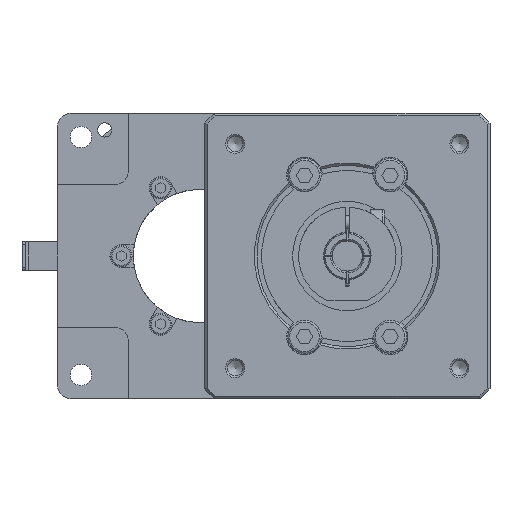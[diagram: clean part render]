
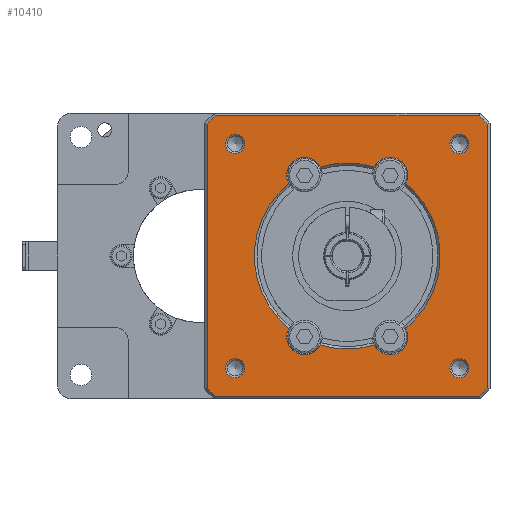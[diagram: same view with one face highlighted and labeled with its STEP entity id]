
A CAD part, front view. The second image highlights one B-rep face of the part: STEP entity #10410.
In plain terms, the highlighted planar face has unit normal (0, -1, 0) as drawn and (0, 0, 1) by its records, which use the part's own axes.
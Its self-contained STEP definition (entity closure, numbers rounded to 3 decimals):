
#446=CIRCLE('',#11142,19.55);
#448=CIRCLE('',#11145,19.55);
#450=CIRCLE('',#11148,19.55);
#473=CIRCLE('',#11186,2.);
#474=CIRCLE('',#11187,2.);
#475=CIRCLE('',#11188,2.);
#476=CIRCLE('',#11189,2.);
#477=CIRCLE('',#11190,3.75);
#478=CIRCLE('',#11191,19.55);
#479=CIRCLE('',#11192,3.75);
#480=CIRCLE('',#11193,3.75);
#481=CIRCLE('',#11194,3.75);
#482=CIRCLE('',#11195,40.5);
#483=CIRCLE('',#11196,40.5);
#484=CIRCLE('',#11197,40.5);
#485=CIRCLE('',#11198,40.5);
#1988=ORIENTED_EDGE('',*,*,#3505,.T.);
#1989=ORIENTED_EDGE('',*,*,#3506,.T.);
#1990=ORIENTED_EDGE('',*,*,#3507,.T.);
#1991=ORIENTED_EDGE('',*,*,#3508,.T.);
#1992=ORIENTED_EDGE('',*,*,#3509,.F.);
#1993=ORIENTED_EDGE('',*,*,#3510,.T.);
#1994=ORIENTED_EDGE('',*,*,#3511,.F.);
#1995=ORIENTED_EDGE('',*,*,#3459,.T.);
#1996=ORIENTED_EDGE('',*,*,#3512,.F.);
#1997=ORIENTED_EDGE('',*,*,#3455,.T.);
#1998=ORIENTED_EDGE('',*,*,#3513,.F.);
#1999=ORIENTED_EDGE('',*,*,#3451,.T.);
#2000=ORIENTED_EDGE('',*,*,#3514,.T.);
#2001=ORIENTED_EDGE('',*,*,#3515,.T.);
#2002=ORIENTED_EDGE('',*,*,#3516,.T.);
#2003=ORIENTED_EDGE('',*,*,#3517,.T.);
#2004=ORIENTED_EDGE('',*,*,#3518,.T.);
#2005=ORIENTED_EDGE('',*,*,#3519,.T.);
#2006=ORIENTED_EDGE('',*,*,#3520,.T.);
#2007=ORIENTED_EDGE('',*,*,#3521,.T.);
#3451=EDGE_CURVE('',#4354,#4352,#446,.T.);
#3455=EDGE_CURVE('',#4358,#4356,#448,.T.);
#3459=EDGE_CURVE('',#4362,#4360,#450,.T.);
#3505=EDGE_CURVE('',#4392,#4392,#473,.T.);
#3506=EDGE_CURVE('',#4393,#4393,#474,.T.);
#3507=EDGE_CURVE('',#4394,#4394,#475,.T.);
#3508=EDGE_CURVE('',#4395,#4395,#476,.T.);
#3509=EDGE_CURVE('',#4396,#4352,#477,.T.);
#3510=EDGE_CURVE('',#4396,#4397,#478,.T.);
#3511=EDGE_CURVE('',#4362,#4397,#479,.T.);
#3512=EDGE_CURVE('',#4358,#4360,#480,.T.);
#3513=EDGE_CURVE('',#4354,#4356,#481,.T.);
#3514=EDGE_CURVE('',#4398,#4399,#5056,.T.);
#3515=EDGE_CURVE('',#4399,#4400,#482,.T.);
#3516=EDGE_CURVE('',#4400,#4401,#5057,.T.);
#3517=EDGE_CURVE('',#4401,#4402,#483,.T.);
#3518=EDGE_CURVE('',#4402,#4403,#5058,.T.);
#3519=EDGE_CURVE('',#4403,#4404,#484,.T.);
#3520=EDGE_CURVE('',#4404,#4405,#5059,.T.);
#3521=EDGE_CURVE('',#4405,#4398,#485,.T.);
#4352=VERTEX_POINT('',#15190);
#4354=VERTEX_POINT('',#15193);
#4356=VERTEX_POINT('',#15205);
#4358=VERTEX_POINT('',#15208);
#4360=VERTEX_POINT('',#15220);
#4362=VERTEX_POINT('',#15223);
#4392=VERTEX_POINT('',#15317);
#4393=VERTEX_POINT('',#15319);
#4394=VERTEX_POINT('',#15321);
#4395=VERTEX_POINT('',#15323);
#4396=VERTEX_POINT('',#15325);
#4397=VERTEX_POINT('',#15327);
#4398=VERTEX_POINT('',#15332);
#4399=VERTEX_POINT('',#15333);
#4400=VERTEX_POINT('',#15335);
#4401=VERTEX_POINT('',#15337);
#4402=VERTEX_POINT('',#15339);
#4403=VERTEX_POINT('',#15341);
#4404=VERTEX_POINT('',#15343);
#4405=VERTEX_POINT('',#15345);
#5056=LINE('',#15331,#5642);
#5057=LINE('',#15336,#5643);
#5058=LINE('',#15340,#5644);
#5059=LINE('',#15344,#5645);
#5642=VECTOR('',#12960,1000.);
#5643=VECTOR('',#12963,1000.);
#5644=VECTOR('',#12966,1000.);
#5645=VECTOR('',#12969,1000.);
#6245=EDGE_LOOP('',(#1988));
#6246=EDGE_LOOP('',(#1989));
#6247=EDGE_LOOP('',(#1990));
#6248=EDGE_LOOP('',(#1991));
#6249=EDGE_LOOP('',(#1992,#1993,#1994,#1995,#1996,#1997,#1998,#1999));
#6250=EDGE_LOOP('',(#2000,#2001,#2002,#2003,#2004,#2005,#2006,#2007));
#6908=FACE_BOUND('',#6245,.T.);
#6909=FACE_BOUND('',#6246,.T.);
#6910=FACE_BOUND('',#6247,.T.);
#6911=FACE_BOUND('',#6248,.T.);
#6912=FACE_BOUND('',#6249,.T.);
#6913=FACE_BOUND('',#6250,.T.);
#7305=PLANE('',#11185);
#10410=ADVANCED_FACE('',(#6908,#6909,#6910,#6911,#6912,#6913),#7305,.T.);
#11142=AXIS2_PLACEMENT_3D('',#15192,#12832,#12833);
#11145=AXIS2_PLACEMENT_3D('',#15207,#12838,#12839);
#11148=AXIS2_PLACEMENT_3D('',#15222,#12844,#12845);
#11185=AXIS2_PLACEMENT_3D('',#15315,#12940,#12941);
#11186=AXIS2_PLACEMENT_3D('',#15316,#12942,#12943);
#11187=AXIS2_PLACEMENT_3D('',#15318,#12944,#12945);
#11188=AXIS2_PLACEMENT_3D('',#15320,#12946,#12947);
#11189=AXIS2_PLACEMENT_3D('',#15322,#12948,#12949);
#11190=AXIS2_PLACEMENT_3D('',#15324,#12950,#12951);
#11191=AXIS2_PLACEMENT_3D('',#15326,#12952,#12953);
#11192=AXIS2_PLACEMENT_3D('',#15328,#12954,#12955);
#11193=AXIS2_PLACEMENT_3D('',#15329,#12956,#12957);
#11194=AXIS2_PLACEMENT_3D('',#15330,#12958,#12959);
#11195=AXIS2_PLACEMENT_3D('',#15334,#12961,#12962);
#11196=AXIS2_PLACEMENT_3D('',#15338,#12964,#12965);
#11197=AXIS2_PLACEMENT_3D('',#15342,#12967,#12968);
#11198=AXIS2_PLACEMENT_3D('',#15346,#12970,#12971);
#12832=DIRECTION('',(0.,0.,-1.));
#12833=DIRECTION('',(-1.,0.,0.));
#12838=DIRECTION('',(0.,0.,-1.));
#12839=DIRECTION('',(-1.,0.,0.));
#12844=DIRECTION('',(0.,0.,-1.));
#12845=DIRECTION('',(-1.,0.,0.));
#12940=DIRECTION('',(0.,0.,1.));
#12941=DIRECTION('',(1.,0.,0.));
#12942=DIRECTION('',(0.,0.,-1.));
#12943=DIRECTION('',(-1.,0.,0.));
#12944=DIRECTION('',(0.,0.,-1.));
#12945=DIRECTION('',(-1.,0.,0.));
#12946=DIRECTION('',(0.,0.,-1.));
#12947=DIRECTION('',(-1.,0.,0.));
#12948=DIRECTION('',(0.,0.,-1.));
#12949=DIRECTION('',(-1.,0.,0.));
#12950=DIRECTION('',(0.,0.,1.));
#12951=DIRECTION('',(1.,0.,0.));
#12952=DIRECTION('',(0.,0.,-1.));
#12953=DIRECTION('',(-1.,0.,0.));
#12954=DIRECTION('',(0.,0.,1.));
#12955=DIRECTION('',(1.,0.,0.));
#12956=DIRECTION('',(0.,0.,1.));
#12957=DIRECTION('',(1.,0.,0.));
#12958=DIRECTION('',(0.,0.,1.));
#12959=DIRECTION('',(1.,0.,0.));
#12960=DIRECTION('',(-1.,0.,0.));
#12961=DIRECTION('',(0.,0.,1.));
#12962=DIRECTION('',(1.,0.,0.));
#12963=DIRECTION('',(0.,-1.,0.));
#12964=DIRECTION('',(0.,0.,1.));
#12965=DIRECTION('',(1.,0.,0.));
#12966=DIRECTION('',(1.,0.,0.));
#12967=DIRECTION('',(0.,0.,1.));
#12968=DIRECTION('',(1.,0.,0.));
#12969=DIRECTION('',(0.,1.,0.));
#12970=DIRECTION('',(0.,0.,1.));
#12971=DIRECTION('',(1.,0.,0.));
#15190=CARTESIAN_POINT('',(-12.291,15.203,0.));
#15192=CARTESIAN_POINT('',(0.,0.,0.));
#15193=CARTESIAN_POINT('',(-12.291,-15.203,0.));
#15205=CARTESIAN_POINT('',(-5.663,-18.712,0.));
#15207=CARTESIAN_POINT('',(0.,0.,0.));
#15208=CARTESIAN_POINT('',(5.663,-18.712,0.));
#15220=CARTESIAN_POINT('',(12.291,-15.203,0.));
#15222=CARTESIAN_POINT('',(0.,0.,0.));
#15223=CARTESIAN_POINT('',(12.291,15.203,0.));
#15315=CARTESIAN_POINT('',(0.,0.,
0.));
#15316=CARTESIAN_POINT('',(-23.57,23.57,0.));
#15317=CARTESIAN_POINT('',(-25.57,23.57,0.));
#15318=CARTESIAN_POINT('',(-23.57,-23.57,0.));
#15319=CARTESIAN_POINT('',(-25.57,-23.57,0.));
#15320=CARTESIAN_POINT('',(23.57,-23.57,0.));
#15321=CARTESIAN_POINT('',(21.57,-23.57,0.));
#15322=CARTESIAN_POINT('',(23.57,23.57,0.));
#15323=CARTESIAN_POINT('',(21.57,23.57,0.));
#15324=CARTESIAN_POINT('',(-9.,17.,0.));
#15325=CARTESIAN_POINT('',(-5.663,18.712,0.));
#15326=CARTESIAN_POINT('',(0.,0.,0.));
#15327=CARTESIAN_POINT('',(5.663,18.712,0.));
#15328=CARTESIAN_POINT('',(9.,17.,0.));
#15329=CARTESIAN_POINT('',(9.,-17.,0.));
#15330=CARTESIAN_POINT('',(-9.,-17.,0.));
#15331=CARTESIAN_POINT('',(0.,29.5,0.));
#15332=CARTESIAN_POINT('',(27.749,29.5,0.));
#15333=CARTESIAN_POINT('',(-27.749,29.5,0.));
#15334=CARTESIAN_POINT('',(0.,0.,0.));
#15335=CARTESIAN_POINT('',(-29.5,27.749,0.));
#15336=CARTESIAN_POINT('',(-29.5,0.,0.));
#15337=CARTESIAN_POINT('',(-29.5,-27.749,0.));
#15338=CARTESIAN_POINT('',(0.,0.,
0.));
#15339=CARTESIAN_POINT('',(-27.749,-29.5,0.));
#15340=CARTESIAN_POINT('',(0.,-29.5,0.));
#15341=CARTESIAN_POINT('',(27.749,-29.5,0.));
#15342=CARTESIAN_POINT('',(0.,0.,0.));
#15343=CARTESIAN_POINT('',(29.5,-27.749,0.));
#15344=CARTESIAN_POINT('',(29.5,0.,0.));
#15345=CARTESIAN_POINT('',(29.5,27.749,0.));
#15346=CARTESIAN_POINT('',(0.,0.,0.));
